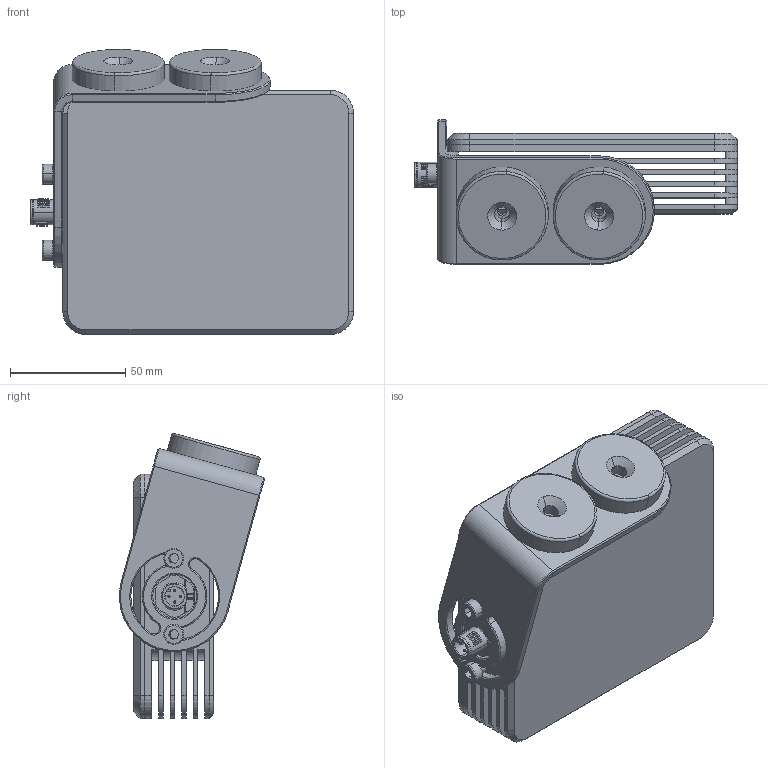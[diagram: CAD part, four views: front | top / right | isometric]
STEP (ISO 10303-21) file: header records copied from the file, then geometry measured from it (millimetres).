
FILE_DESCRIPTION (( 'STEP AP214' ), '1' );
FILE_NAME ('mbx_assem_comp.STEP', '2015-07-09T19:58:34', ( 'admin' ), ( '' ), 'SwSTEP 2.0', 'SolidWorks 2014', '' );
FILE_SCHEMA (( 'AUTOMOTIVE_DESIGN' ));
Length unit declared in the file: millimetre
Products named in the file (1): mbx_assem_comp
Bounding box: 140 x 62.89 x 123.62 mm (x, y, z)
Surface area: 95427.8 mm2 (no closed solid volume)
Topology: 0 solids, 26 shells, 473 faces, 1572 edges, 1069 vertices
Faces by surface type: plane 202, cylinder 151, cone 61, bspline 41, torus 12, sphere 6
Entity records: 25301 total; most frequent: CARTESIAN_POINT 6776, DIRECTION 2777, ORIENTED_EDGE 2492, EDGE_CURVE 1560, VERTEX_POINT 1067, AXIS2_PLACEMENT_3D 943, LINE 891, VECTOR 891
